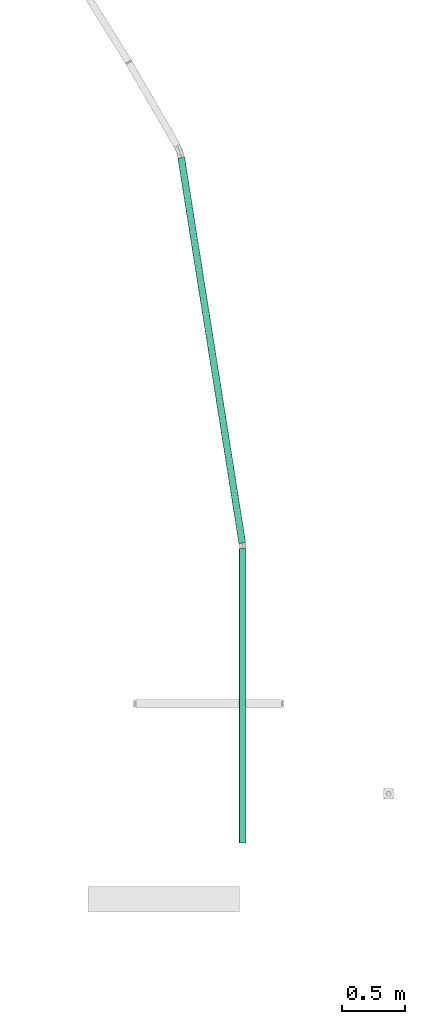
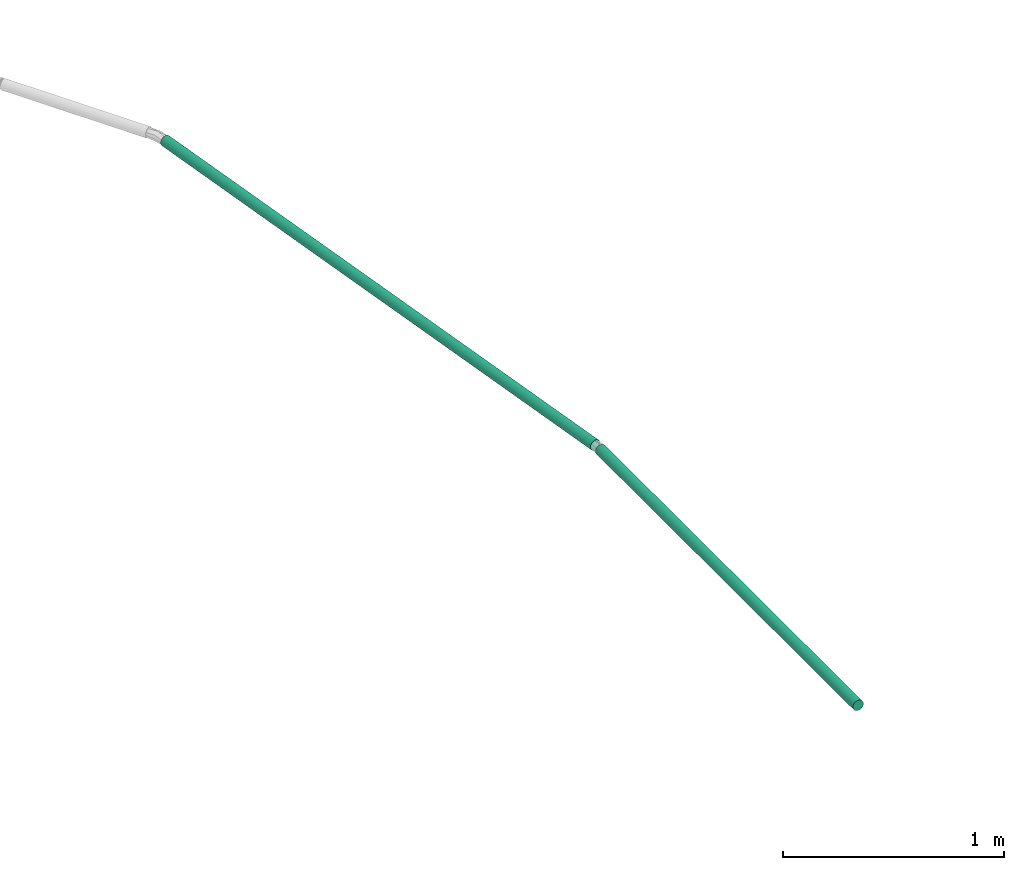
# One storey, part 9 of 153: 2 flow segments.
"""IFC2X3 building model written with IfcOpenShell, lengths in metres."""

import ifcopenshell
import ifcopenshell.guid

model = None  # the IFC model being written
_history = None  # IfcOwnerHistory: only IFC2X3 demands one
_inside = {}  # id of a spatial element -> (the spatial element, [elements in it])
_under = {}  # id of a project, library or spatial element -> (it, [spatial elements below it])
_declared = {}  # id of a project -> (the project, [libraries it declares])
_typed = {}  # id of a type object -> (the type object, [elements of that type])
_made_of = {}  # id of a material, layer set ... -> (it, [elements and type objects made of it])


def new_model(schema):
    """Start an empty IFC model of exactly this schema.

    Asked for "IFC4X3", IfcOpenShell would pick the latest addendum, in which some entities
    have other attributes; the version numbers below select the first issue.
    IFC2X3 requires an IfcOwnerHistory on every rooted entity: one is made here for all.
    """
    global model, _history
    if schema == "IFC4X3":
        model = ifcopenshell.file(schema_version=(4, 3, 0, 0))
    else:
        model = ifcopenshell.file(schema=schema)
    _inside.clear()
    _under.clear()
    _declared.clear()
    _typed.clear()
    _made_of.clear()
    _history = None
    if model.schema == "IFC2X3":
        org = make("IfcOrganization", Name="unknown")
        user = make(
            "IfcPersonAndOrganization",
            ThePerson=make("IfcPerson", FamilyName="unknown"),
            TheOrganization=org,
        )
        app = make(
            "IfcApplication",
            ApplicationDeveloper=org,
            Version="unknown",
            ApplicationFullName="unknown",
            ApplicationIdentifier="unknown",
        )
        _history = make(
            "IfcOwnerHistory",
            OwningUser=user,
            OwningApplication=app,
            ChangeAction="ADDED",
            CreationDate=0,
        )
    return model


def make(cls, **values):
    """One entity of the class cls with the attributes given. An attribute that is None is left unset."""
    return model.create_entity(
        cls, **{name: value for name, value in values.items() if value is not None}
    )


def entity(cls, *values):
    """Any entity or typed value of the class cls, its attributes in the order of the schema. None: left unset."""
    e = model.create_entity(cls)
    for i, value in enumerate(values):
        if value is not None:
            e[i] = value
    return e


def rooted(cls, **values):
    """An entity with a GlobalId (a new one), such as an element, a storey or a relation."""
    return make(cls, GlobalId=ifcopenshell.guid.new(), OwnerHistory=_history, **values)


def si_unit(unit_type, name, prefix=None):
    """IfcSIUnit, for example si_unit("LENGTHUNIT", "METRE", prefix="MILLI")."""
    return make("IfcSIUnit", UnitType=unit_type, Prefix=prefix, Name=name)


def converted_unit(unit_type, name, factor, base, dimensions=None, offset=None):
    """IfcConversionBasedUnit, such as the inch: factor (a typed value) times the base unit."""
    return make(
        "IfcConversionBasedUnit"
        if offset is None
        else "IfcConversionBasedUnitWithOffset",
        ConversionOffset=offset,
        Dimensions=None
        if dimensions is None
        else entity("IfcDimensionalExponents", *dimensions),
        UnitType=unit_type,
        Name=name,
        ConversionFactor=make(
            "IfcMeasureWithUnit", ValueComponent=factor, UnitComponent=base
        ),
    )


def derived_unit(unit_type, elements):
    """IfcDerivedUnit: a product of units, each with its exponent."""
    return make(
        "IfcDerivedUnit",
        Elements=[
            make("IfcDerivedUnitElement", Unit=unit, Exponent=power)
            for unit, power in elements
        ],
        UnitType=unit_type,
    )


def assignment(units):
    """IfcUnitAssignment: the units of a project."""
    return None if units is None else make("IfcUnitAssignment", Units=units)


def point(xyz):
    """IfcCartesianPoint."""
    return None if xyz is None else make("IfcCartesianPoint", Coordinates=xyz)


def direction(xyz):
    """IfcDirection."""
    return None if xyz is None else make("IfcDirection", DirectionRatios=xyz)


def frame(location, z_axis=None, x_axis=None):
    """IfcAxis2Placement3D, a coordinate frame: its origin and axes. An axis left out is left unset."""
    return make(
        "IfcAxis2Placement3D",
        Location=point(location),
        Axis=direction(z_axis),
        RefDirection=direction(x_axis),
    )


def frame_2d(location, x_axis=None):
    """IfcAxis2Placement2D, a coordinate frame in the plane: its origin and x axis."""
    return make(
        "IfcAxis2Placement2D", Location=point(location), RefDirection=direction(x_axis)
    )


def origin():
    """The frame at (0, 0, 0) with its axes left unset."""
    return frame((0.0, 0.0, 0.0))


def origin_2d_with_axis():
    """The frame at (0, 0) in the plane with the x axis (1, 0) written out."""
    return frame_2d((0.0, 0.0), x_axis=(1.0, 0.0))


def place(relative_to, where):
    """IfcLocalPlacement: puts the frame where relative to a parent placement (None: the world)."""
    return make(
        "IfcLocalPlacement", PlacementRelTo=relative_to, RelativePlacement=where
    )


def context(
    kind, dimensions, precision=None, world=None, true_north=None, identifier=None
):
    """IfcGeometricRepresentationContext, for example the 3D "Model" context."""
    return make(
        "IfcGeometricRepresentationContext",
        ContextIdentifier=identifier,
        ContextType=kind,
        CoordinateSpaceDimension=dimensions,
        Precision=precision,
        WorldCoordinateSystem=world,
        TrueNorth=true_north,
    )


def subcontext(parent, identifier, kind, view, scale=None):
    """IfcGeometricRepresentationSubContext, for example "Body" below "Model"."""
    return make(
        "IfcGeometricRepresentationSubContext",
        ContextIdentifier=identifier,
        ContextType=kind,
        ParentContext=parent,
        TargetScale=scale,
        TargetView=view,
    )


def project(units=None, contexts=None):
    """IfcProject with its units and contexts."""
    return rooted(
        "IfcProject",
        Name="project",
        RepresentationContexts=contexts,
        UnitsInContext=assignment(units),
    )


def spatial(cls, under=None, at=None, **own):
    """A site, building, storey or space (cls), placed at a placement, below another one or the project."""
    s = rooted(cls, ObjectPlacement=at, **own)
    if under is not None:
        _under.setdefault(under.id(), (under, []))[1].append(s)
    return s


def profile(cls, at=None, kind="AREA", **sizes):
    """A parametric profile (cls). Its sizes go by their IFC names, for example OverallWidth=200.0."""
    return make(cls, ProfileType=kind, Position=at, **sizes)


def circle(**sizes):
    """IfcCircleProfileDef."""
    return profile("IfcCircleProfileDef", **sizes)


def extrude(swept, where, along, depth):
    """IfcExtrudedAreaSolid: the profile swept, set in the frame where, extruded along a direction by depth."""
    return make(
        "IfcExtrudedAreaSolid",
        SweptArea=swept,
        Position=where,
        ExtrudedDirection=direction(along),
        Depth=depth,
    )


def shape(context_of_items, identifier, shape_type, items):
    """IfcShapeRepresentation: the items that make up one representation, for example the "Body"."""
    return make(
        "IfcShapeRepresentation",
        ContextOfItems=context_of_items,
        RepresentationIdentifier=identifier,
        RepresentationType=shape_type,
        Items=items,
    )


def made_of(thing, what):
    """Note that an element or type object is made of a material, layer set ...; save() writes the relation."""
    if what is not None:
        _made_of.setdefault(what.id(), (what, []))[1].append(thing)
    return thing


def type_object(cls, material=None, **own):
    """A type object (cls), such as IfcWallType, which elements share."""
    return made_of(rooted(cls, **own), material)


def element(
    cls,
    number,
    at=None,
    inside=None,
    cuts=None,
    type_object=None,
    material=None,
    context=None,
    identifier="Body",
    shape_type=None,
    held_by="IfcProductDefinitionShape",
    body=None,
    shapes=None,
    **own,
):
    """One element of the class cls, such as IfcWall. Its Tag is "e" and its number.

    at: its placement. inside: the storey or other place that contains it. cuts: it is an
    opening in that element (IfcRelVoidsElement). A single representation is given by context,
    identifier, shape_type and body (its items); several are given by shapes. held_by: the class
    of the entity that holds the representations. save() writes the other relations.
    """
    e = rooted(cls, Tag="e%d" % number, ObjectPlacement=at, **own)
    if body is not None:
        shapes = [shape(context, identifier, shape_type, body)]
    if shapes is not None:
        e.Representation = make(held_by, Representations=shapes)
    if inside is not None:
        _inside.setdefault(inside.id(), (inside, []))[1].append(e)
    if cuts is not None:
        rooted(
            "IfcRelVoidsElement", RelatingBuildingElement=cuts, RelatedOpeningElement=e
        )
    if type_object is not None:
        _typed.setdefault(type_object.id(), (type_object, []))[1].append(e)
    return made_of(e, material)


def aggregate(whole, parts):
    """IfcRelAggregates: a whole, such as a stair, and the parts it consists of."""
    return rooted("IfcRelAggregates", RelatingObject=whole, RelatedObjects=parts)


def save(model, path):
    """Write the relations noted so far, then the file.

    IfcRelAggregates (storeys below a building ...), IfcRelContainedInSpatialStructure (elements
    in a storey), IfcRelDefinesByType, IfcRelAssociatesMaterial and IfcRelDeclares: one each for
    every whole, place, type object, material and project.
    """
    for whole, parts in _under.values():
        aggregate(whole, parts)
    for where, things in _inside.values():
        rooted(
            "IfcRelContainedInSpatialStructure",
            RelatedElements=things,
            RelatingStructure=where,
        )
    for kind, things in _typed.values():
        rooted("IfcRelDefinesByType", RelatedObjects=things, RelatingType=kind)
    for what, things in _made_of.values():
        rooted("IfcRelAssociatesMaterial", RelatedObjects=things, RelatingMaterial=what)
    for by, libraries in _declared.values():
        rooted("IfcRelDeclares", RelatingContext=by, RelatedDefinitions=libraries)
    model.write(path)


model = new_model("IFC2X3")

# Units and contexts
model_context = context("Model", 3, precision=1e-05, world=origin(), true_north=direction((6.12303176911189e-17, 1.0)))
body_context = subcontext(model_context, "Body", "Model", "MODEL_VIEW")
ifc_project = project(units=[si_unit("LENGTHUNIT", "METRE"), si_unit("AREAUNIT", "SQUARE_METRE"), si_unit("VOLUMEUNIT", "CUBIC_METRE"), converted_unit("PLANEANGLEUNIT", "DEGREE", entity("IfcRatioMeasure", 0.0174532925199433), si_unit("PLANEANGLEUNIT", "RADIAN"), dimensions=[0, 0, 0, 0, 0, 0, 0]), si_unit("MASSUNIT", "GRAM", prefix="KILO"), derived_unit("MASSDENSITYUNIT", [(si_unit("MASSUNIT", "GRAM", prefix="KILO"), 1), (si_unit("LENGTHUNIT", "METRE"), -3)]), si_unit("TIMEUNIT", "SECOND"), si_unit("FREQUENCYUNIT", "HERTZ"), si_unit("THERMODYNAMICTEMPERATUREUNIT", "DEGREE_CELSIUS"), derived_unit("THERMALTRANSMITTANCEUNIT", [(si_unit("MASSUNIT", "GRAM", prefix="KILO"), 1), (si_unit("THERMODYNAMICTEMPERATUREUNIT", "KELVIN"), -1), (si_unit("TIMEUNIT", "SECOND"), -3)]), derived_unit("VOLUMETRICFLOWRATEUNIT", [(si_unit("LENGTHUNIT", "METRE"), 3), (si_unit("TIMEUNIT", "SECOND"), -1)]), si_unit("ELECTRICCURRENTUNIT", "AMPERE"), si_unit("ELECTRICVOLTAGEUNIT", "VOLT"), si_unit("POWERUNIT", "WATT"), si_unit("FORCEUNIT", "NEWTON"), si_unit("ILLUMINANCEUNIT", "LUX"), si_unit("LUMINOUSFLUXUNIT", "LUMEN"), si_unit("LUMINOUSINTENSITYUNIT", "CANDELA"), derived_unit("USERDEFINED", [(si_unit("MASSUNIT", "GRAM", prefix="KILO"), -1), (si_unit("LENGTHUNIT", "METRE"), -2), (si_unit("TIMEUNIT", "SECOND"), 3), (si_unit("LUMINOUSFLUXUNIT", "LUMEN"), 1)]), derived_unit("LINEARVELOCITYUNIT", [(si_unit("LENGTHUNIT", "METRE"), 1), (si_unit("TIMEUNIT", "SECOND"), -1)]), si_unit("PRESSUREUNIT", "PASCAL"), derived_unit("USERDEFINED", [(si_unit("LENGTHUNIT", "METRE"), -2), (si_unit("MASSUNIT", "GRAM", prefix="KILO"), 1), (si_unit("TIMEUNIT", "SECOND"), -2)])], contexts=[model_context])

# Site, building, storey
site_placement = place(None, origin())
site = spatial("IfcSite", under=ifc_project, at=site_placement, Name="Default", CompositionType="ELEMENT")
building_placement = place(site_placement, origin())
building = spatial("IfcBuilding", under=site, at=building_placement, CompositionType="ELEMENT")
storey_placement = place(building_placement, frame((0.0, 0.0, -4.62)))
storey = spatial("IfcBuildingStorey", under=building, at=storey_placement, Name="S02", CompositionType="ELEMENT", Elevation=-4.62)

# Flow segments
cable_carrier_segment_type = type_object("IfcCableCarrierSegmentType", Name="Conduit without Fittings:Conduit", PredefinedType="NOTDEFINED")
flow_segment_1_placement = place(building_placement, frame((0.0, 0.0, -4.62)))
element("IfcFlowSegment", 1, at=flow_segment_1_placement, inside=storey, type_object=cable_carrier_segment_type, Name="Conduit without Fittings:Conduit", ObjectType="Conduit without Fittings:Conduit", context=body_context, shape_type="SweptSolid", body=[
    extrude(circle(Radius=0.0279, at=origin_2d_with_axis()), frame((39.3926220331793, -179.991123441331, -0.1721), z_axis=(0.156434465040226, -0.987688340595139, 0.0), x_axis=(-0.987688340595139, -0.156434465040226, 0.0)), (0.0, 0.0, 1.0), 3.09092022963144),
])
flow_segment_2_placement = place(building_placement, frame((0.0, 0.0, -4.62)))
element("IfcFlowSegment", 2, at=flow_segment_2_placement, inside=storey, type_object=cable_carrier_segment_type, Name="Conduit without Fittings:Conduit", ObjectType="Conduit without Fittings:Conduit", context=body_context, shape_type="SweptSolid", body=[
    extrude(circle(Radius=0.0279, at=frame_2d((-8.66293703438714e-15, -5.95576921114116e-15), x_axis=(1.0, 0.0))), frame((39.8796192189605, -185.417902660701, -0.17209999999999), z_axis=(0.0, 1.0, 0.0), x_axis=(-1.0, 0.0, 0.0)), (0.0, 0.0, 1.0), 2.32981350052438),
])

save(model, "model.ifc")
